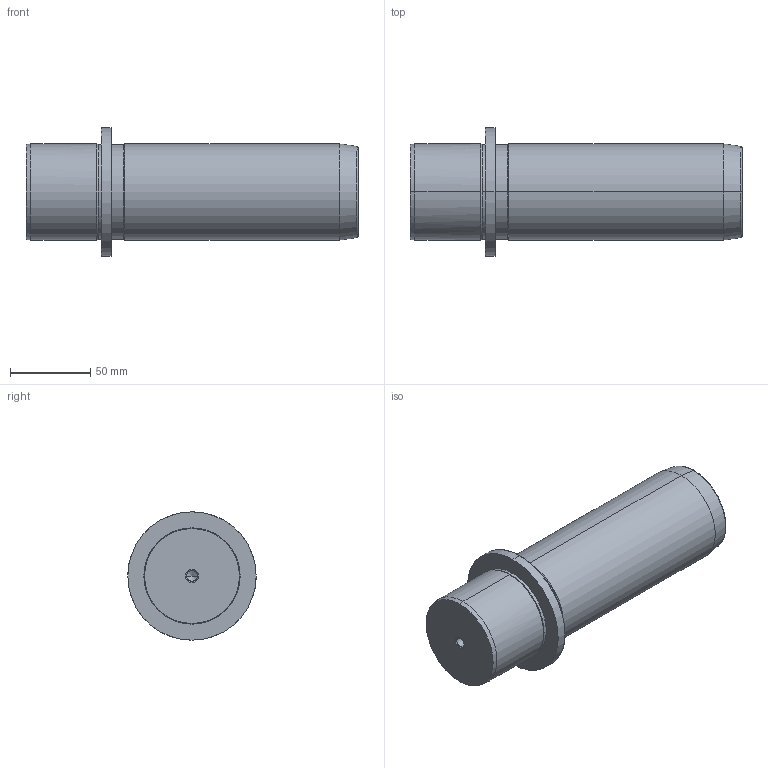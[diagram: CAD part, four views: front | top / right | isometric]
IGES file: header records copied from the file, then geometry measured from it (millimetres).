
Start section: START RECORD GO HERE.
Global section: file name: 718-60x160.igs; native system: DASSAULT SYSTEMES CATIA V5 R20 - www.3ds.com; preprocessor: CATIA Version 5 Release 20 ; author: Utente; organization: NB04-ASUS; date: 20210102.131351; units: millimetre
Bounding box: 207 x 80 x 80 mm (x, y, z)
Surface area: 50196.8 mm2 (no closed solid volume)
Topology: 0 solids, 0 shells, 36 faces, 196 edges, 192 vertices
Faces by surface type: revolution 32, plane 4
